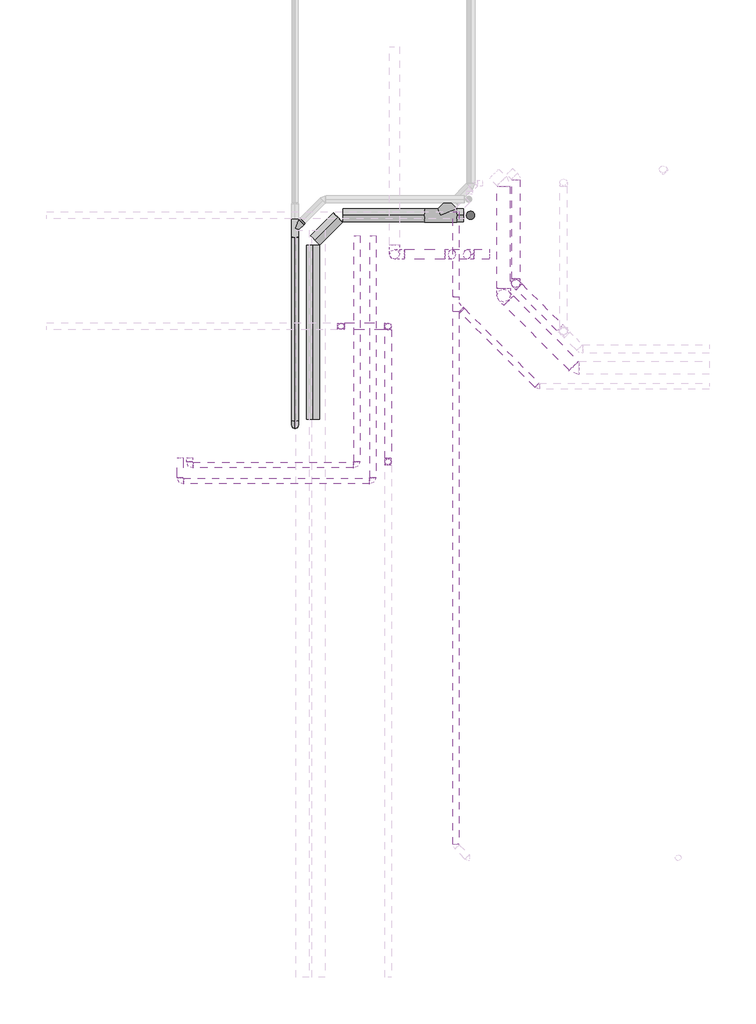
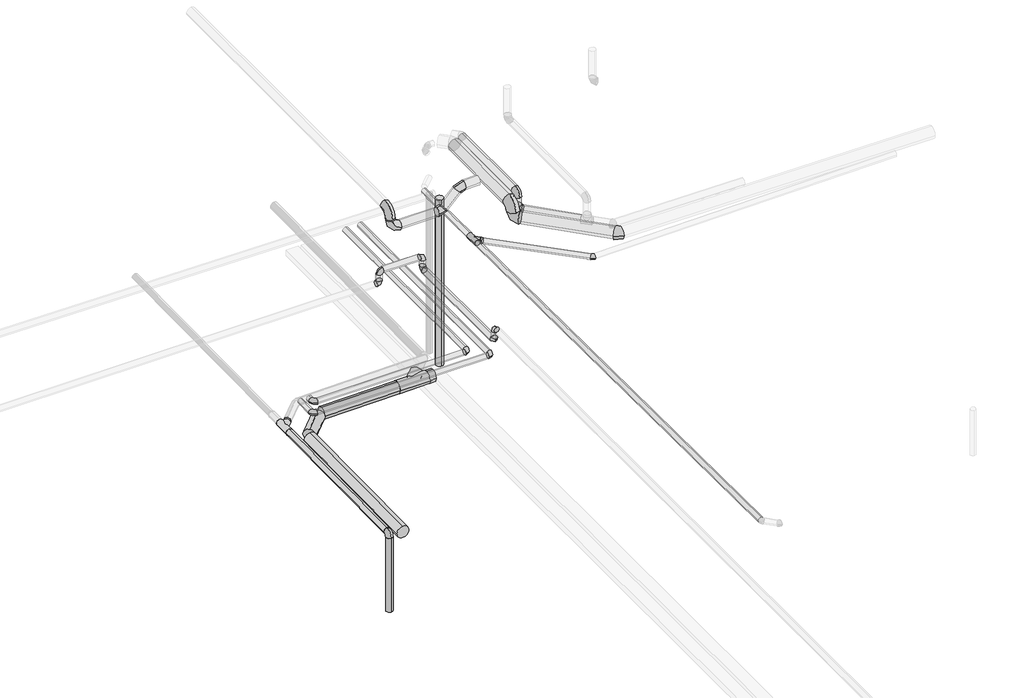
# One storey, part 8 of 10: 27 pipe segments, 22 pipe fittings, 4 duct fittings, 4 duct segments.
"""IFC4 building model written with IfcOpenShell, lengths in millimetres."""

from ifc_helpers import new_model, si_unit, point, frame, frame_2d, origin, place, context, project, spatial, circle_curve, trimmed, segment, composite_curve, outline, extrude, transform, mapped, element, save
from components import m_codo_redondo_ext_1_d_fe658834, m_codo_redondo_ext_1_d_18db741d, pipe_fitting_ae9a0cda, pipe_fitting_aab77541, pipe_fitting_eb148d84, pipe_fitting_87aeffad, pipe_fitting_044f3c29, pipe_fitting_c8b3499b, pipe_fitting_fbf8ab9e, pipe_fitting_2c972f74, pipe_fitting_8877fa9a, pipe_fitting_bb2194a9, pipe_fitting_4fd6fdf6, pipe_fitting_b4f3c030

model = new_model("IFC4")

# Units and contexts
model_context = context("Model", 3, world=origin())
ifc_project = project(units=[si_unit("LENGTHUNIT", "METRE", prefix="MILLI")], contexts=[model_context])

# Site, building, storey
site = spatial("IfcSite", under=ifc_project)
building = spatial("IfcBuilding", under=site)
storey = spatial("IfcBuildingStorey", under=building, Name="Nivell 00 P00_PB", Elevation=6330.0)

# Duct fittings
placement = place(None, origin())
m_codo_redondo_ext_1_d_shape = m_codo_redondo_ext_1_d_fe658834(model_context)
element("IfcDuctFitting", 1, ObjectType="M_Codo redondo : EXT_1 D", at=placement, inside=storey, context=model_context, shape_type="MappedRepresentation", body=[
    mapped(m_codo_redondo_ext_1_d_shape, transform((5533.9584104, 7392.2474985, 10855.0), x_axis=(0.0, -1.0, 0.0), y_axis=(0.0, 0.0, -1.0), z_axis=(1.0, 0.0, 0.0))),
])
element("IfcDuctFitting", 2, ObjectType="M_Codo redondo : EXT_1 D", at=placement, inside=storey, context=model_context, shape_type="MappedRepresentation", body=[
    mapped(m_codo_redondo_ext_1_d_shape, transform((5533.9584104, 7392.2474985, 10535.0), x_axis=(-0.9999999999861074, 5.2711602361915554e-06, 0.0), y_axis=(0.0, 0.0, 1.0), z_axis=(5.2711602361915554e-06, 0.9999999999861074, 0.0))),
])
m_codo_redondo_ext_1_d_2_shape = m_codo_redondo_ext_1_d_18db741d(model_context)
element("IfcDuctFitting", 3, ObjectType="M_Codo redondo : EXT_1 D", at=placement, inside=storey, context=model_context, shape_type="MappedRepresentation", body=[
    mapped(m_codo_redondo_ext_1_d_2_shape, transform((6690.48325, 7392.2406907, 10855.0), x_axis=(-0.9999999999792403, 6.443574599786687e-06, 0.0), y_axis=(0.0, 0.0, -1.0000000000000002), z_axis=(-6.443574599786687e-06, -0.9999999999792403, 0.0))),
])
element("IfcDuctFitting", 4, ObjectType="M_Codo redondo : EXT_1 D", at=placement, inside=storey, context=model_context, shape_type="MappedRepresentation", body=[
    mapped(m_codo_redondo_ext_1_d_2_shape, transform((6370.48325, 7392.2427527, 10535.0), x_axis=(0.9999999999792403, -6.443574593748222e-06, 0.0), y_axis=(0.0, 0.0, 1.0000000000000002), z_axis=(-6.443574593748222e-06, -0.9999999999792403, 0.0))),
])

# Duct segments
element("IfcDuctSegment", 5, ObjectType="EXT_Acer Galvanitzat - Rígid", at=placement, inside=storey, context=model_context, shape_type="SweptSolid", body=[
    extrude(outline(composite_curve([segment(trimmed(circle_curve(frame_2d((0.0, 75.0)), 75.0), [point((-75.0, 75.0))], [point((0.0, 150.0))], False, "CARTESIAN"), True, "CONTINUOUS"), segment(trimmed(circle_curve(frame_2d((0.0, 75.0)), 75.0), [point((0.0, 150.0))], [point((75.0, 75.0))], False, "CARTESIAN"), True, "CONTINUOUS"), segment(trimmed(circle_curve(frame_2d((0.0, 75.0)), 75.0), [point((75.0, 75.0))], [point((0.0, 0.0))], False, "CARTESIAN"), True, "CONTINUOUS"), segment(trimmed(circle_curve(frame_2d((0.0, 75.0)), 75.0), [point((0.0, 0.0))], [point((-75.0, 75.0))], False, "CARTESIAN"), True, "CONTINUOUS")], self_intersect=False)), frame((6990.48325, 7392.2390798, 10780.0), z_axis=(-0.9999999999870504, 5.089131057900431e-06, 0.0), x_axis=(-5.089131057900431e-06, -0.9999999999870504, 0.0)), (0.0, 0.0, 1.0), 237.8679656),
])
element("IfcDuctSegment", 6, ObjectType="EXT_Acer Galvanitzat - Rígid", at=placement, inside=storey, context=model_context, shape_type="SweptSolid", body=[
    extrude(outline(composite_curve([segment(trimmed(circle_curve(frame_2d((0.0, -75.0)), 75.0), [point((0.0003417, 0.0))], [point((75.0, -75.0003417))], False, "CARTESIAN"), True, "CONTINUOUS"), segment(trimmed(circle_curve(frame_2d((0.0, -75.0)), 75.0), [point((75.0, -75.0003417))], [point((-0.0003417, -150.0))], False, "CARTESIAN"), True, "CONTINUOUS"), segment(trimmed(circle_curve(frame_2d((0.0, -75.0)), 75.0), [point((-0.0003417, -150.0))], [point((-75.0, -74.9996583))], False, "CARTESIAN"), True, "CONTINUOUS"), segment(trimmed(circle_curve(frame_2d((0.0, -75.0)), 75.0), [point((-75.0, -74.9996583))], [point((0.0003417, 0.0))], False, "CARTESIAN"), True, "CONTINUOUS")], self_intersect=False)), frame((6414.4172328, 7467.2424696, 10578.9344661), z_axis=(0.7071067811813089, -4.55629523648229e-06, 0.7071067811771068), x_axis=(0.7071067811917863, 4.5562952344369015e-06, -0.7071067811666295)), (0.0, 0.0, 1.0), 328.2842713),
])
element("IfcDuctSegment", 7, ObjectType="EXT_Acer Galvanitzat - Rígid", at=placement, inside=storey, context=model_context, shape_type="SweptSolid", body=[
    extrude(outline(composite_curve([segment(trimmed(circle_curve(frame_2d((0.0, 75.0)), 75.0), [point((-75.0, 75.0))], [point((0.0, 150.0))], False, "CARTESIAN"), True, "CONTINUOUS"), segment(trimmed(circle_curve(frame_2d((0.0, 75.0)), 75.0), [point((0.0, 150.0))], [point((75.0, 75.0))], False, "CARTESIAN"), True, "CONTINUOUS"), segment(trimmed(circle_curve(frame_2d((0.0, 75.0)), 75.0), [point((75.0, 75.0))], [point((0.0, 0.0))], False, "CARTESIAN"), True, "CONTINUOUS"), segment(trimmed(circle_curve(frame_2d((0.0, 75.0)), 75.0), [point((0.0, 0.0))], [point((-75.0, 75.0))], False, "CARTESIAN"), True, "CONTINUOUS")], self_intersect=False)), frame((6308.3512156, 7392.243153, 10460.0), z_axis=(-0.9999999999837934, 5.693263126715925e-06, 0.0), x_axis=(-5.693263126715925e-06, -0.9999999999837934, 0.0)), (0.0, 0.0, 1.0), 624.3928052),
])
element("IfcDuctSegment", 8, ObjectType="EXT_Acer Galvanitzat - Rígid", at=placement, inside=storey, context=model_context, shape_type="SweptSolid", body=[
    extrude(outline(composite_curve([segment(trimmed(circle_curve(frame_2d((5533.9584104, 7392.2474985)), 75.0), [point((5533.9584104, 7467.2474985))], [point((5608.9584104, 7392.2474985))], False, "CARTESIAN"), True, "CONTINUOUS"), segment(trimmed(circle_curve(frame_2d((5533.9584104, 7392.2474985)), 75.0), [point((5608.9584104, 7392.2474985))], [point((5533.9584104, 7317.2474985))], False, "CARTESIAN"), True, "CONTINUOUS"), segment(trimmed(circle_curve(frame_2d((5533.9584104, 7392.2474985)), 75.0), [point((5533.9584104, 7317.2474985))], [point((5458.9584104, 7392.2474985))], False, "CARTESIAN"), True, "CONTINUOUS"), segment(trimmed(circle_curve(frame_2d((5533.9584104, 7392.2474985)), 75.0), [point((5458.9584104, 7392.2474985))], [point((5533.9584104, 7467.2474985))], False, "CARTESIAN"), True, "CONTINUOUS")], self_intersect=False)), frame((0.0, 0.0, 10685.0), z_axis=(0.0, 0.0, 1.0), x_axis=(1.0, 0.0, 0.0)), (0.0, 0.0, 1.0), 20.0),
])

# Pipe fittings
pipe_fitting_shape = pipe_fitting_ae9a0cda(model_context)
element("IfcPipeFitting", 9, ObjectType="M_Codo - Genérico : Estándar", at=placement, inside=storey, context=model_context, shape_type="MappedRepresentation", body=[
    mapped(pipe_fitting_shape, transform((8314.6980016, 5653.2554163, 10517.3310711), x_axis=(0.7070714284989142, -0.7070714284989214, -0.00999950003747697), y_axis=(0.7070714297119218, 0.7071300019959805, -0.004141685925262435), z_axis=(0.009999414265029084, -0.004141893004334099, 0.9999414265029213))),
])
pipe_fitting_2_shape = pipe_fitting_aab77541(model_context)
element("IfcPipeFitting", 10, ObjectType="M_Codo - Genérico : Estándar", at=placement, inside=storey, context=model_context, shape_type="MappedRepresentation", body=[
    mapped(pipe_fitting_2_shape, transform((4010.393115, 4779.6569696, 7288.5689686), x_axis=(0.0, -0.9999500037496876, -0.00999950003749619), y_axis=(0.0, 0.00999950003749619, -0.9999500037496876), z_axis=(1.0, 0.0, 0.0))),
])
pipe_fitting_3_shape = pipe_fitting_eb148d84(model_context)
element("IfcPipeFitting", 11, ObjectType="M_Codo - Genérico : Estándar", at=placement, inside=storey, context=model_context, shape_type="MappedRepresentation", body=[
    mapped(pipe_fitting_3_shape, transform((7206.7616298, 6761.2703161, 10752.7997), x_axis=(0.0, -0.9999500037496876, -0.009999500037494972), y_axis=(0.0, 0.009999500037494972, -0.9999500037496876), z_axis=(1.0, 0.0, 0.0))),
])
element("IfcPipeFitting", 12, ObjectType="M_Codo - Genérico : Estándar", at=placement, inside=storey, context=model_context, shape_type="MappedRepresentation", body=[
    mapped(pipe_fitting_3_shape, transform((7206.7082256, 6761.2451923, 10533.0004128), x_axis=(0.0, 0.0, -1.0), y_axis=(0.7071067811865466, -0.7071067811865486, 0.0), z_axis=(-0.7071067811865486, -0.7071067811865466, 0.0))),
])
pipe_fitting_4_shape = pipe_fitting_87aeffad(model_context)
element("IfcPipeFitting", 13, ObjectType="M_Codo - Genérico : Estándar", at=placement, inside=storey, context=model_context, shape_type="MappedRepresentation", body=[
    mapped(pipe_fitting_4_shape, transform((4957.1942112, 4165.2793628, 10525.0), x_axis=(1.0, 0.0, 0.0), y_axis=(0.0, 1.0, 0.0), z_axis=(0.0, 0.0, 1.0))),
])
element("IfcPipeFitting", 14, ObjectType="M_Codo - Genérico : Estándar", at=placement, inside=storey, context=model_context, shape_type="MappedRepresentation", body=[
    mapped(pipe_fitting_4_shape, transform((2392.2371387, 4165.2793628, 10525.0), x_axis=(0.0, -1.0, 0.0), y_axis=(1.0, 0.0, 0.0), z_axis=(0.0, 0.0, 1.0))),
])
element("IfcPipeFitting", 15, ObjectType="M_Codo - Genérico : Estándar", at=placement, inside=storey, context=model_context, shape_type="MappedRepresentation", body=[
    mapped(pipe_fitting_4_shape, transform((5202.1942112, 3920.2793628, 10525.0), x_axis=(1.0, 0.0, 0.0), y_axis=(0.0, 1.0, 0.0), z_axis=(0.0, 0.0, 1.0))),
])
element("IfcPipeFitting", 16, ObjectType="M_Codo - Genérico : Estándar", at=placement, inside=storey, context=model_context, shape_type="MappedRepresentation", body=[
    mapped(pipe_fitting_4_shape, transform((2247.2371387, 3920.2793628, 10525.0), x_axis=(0.0, -1.0, 0.0), y_axis=(1.0, 0.0, 0.0), z_axis=(0.0, 0.0, 1.0))),
])
element("IfcPipeFitting", 17, ObjectType="M_Codo - Genérico : Estándar", at=placement, inside=storey, context=model_context, shape_type="MappedRepresentation", body=[
    mapped(pipe_fitting_4_shape, transform((4715.0450564, 6291.9942873, 10519.2), x_axis=(0.0, 0.0, -1.0), y_axis=(-1.0, 0.0, 0.0), z_axis=(0.0, 1.0, 0.0))),
])
element("IfcPipeFitting", 18, ObjectType="M_Codo - Genérico : Estándar", at=placement, inside=storey, context=model_context, shape_type="MappedRepresentation", body=[
    mapped(pipe_fitting_4_shape, transform((5436.8741871, 6291.9942873, 10730.8), x_axis=(0.0, 0.0, 1.0), y_axis=(-1.0, 0.0, 0.0), z_axis=(0.0, -1.0, 0.0))),
])
element("IfcPipeFitting", 19, ObjectType="M_Codo - Genérico : Estándar", at=placement, inside=storey, context=model_context, shape_type="MappedRepresentation", body=[
    mapped(pipe_fitting_4_shape, transform((4715.0450564, 6291.9942873, 10730.8), x_axis=(0.0, 0.0, 1.0), y_axis=(1.0, 0.0, 0.0), z_axis=(0.0, 1.0, 0.0))),
])
element("IfcPipeFitting", 20, ObjectType="M_Codo - Genérico : Estándar", at=placement, inside=storey, context=model_context, shape_type="MappedRepresentation", body=[
    mapped(pipe_fitting_4_shape, transform((5436.8741871, 6291.9942873, 10519.2), x_axis=(0.0, 0.0, -1.0), y_axis=(0.0, -1.0, 0.0), z_axis=(-1.0, 0.0, 0.0))),
])
element("IfcPipeFitting", 21, ObjectType="M_Codo - Genérico : Estándar", at=placement, inside=storey, context=model_context, shape_type="MappedRepresentation", body=[
    mapped(pipe_fitting_4_shape, transform((5436.8741871, 4216.5880373, 10519.2), x_axis=(0.0, 0.0, -1.0), y_axis=(0.0, 1.0, 0.0), z_axis=(1.0, 0.0, 0.0))),
])
element("IfcPipeFitting", 22, ObjectType="M_Codo - Genérico : Estándar", at=placement, inside=storey, context=model_context, shape_type="MappedRepresentation", body=[
    mapped(pipe_fitting_4_shape, transform((5436.8741871, 4216.5880373, 10729.2), x_axis=(0.0, 0.0, 1.0), y_axis=(0.0, -1.0, 0.0), z_axis=(1.0, 0.0, 0.0))),
])
pipe_fitting_5_shape = pipe_fitting_044f3c29(model_context)
element("IfcPipeFitting", 23, ObjectType="M_Te - Genérica : Estándar", at=placement, inside=storey, context=model_context, shape_type="MappedRepresentation", body=[
    mapped(pipe_fitting_5_shape, transform((4010.393115, 7791.7826012, 7318.690225), x_axis=(0.0, 0.9999500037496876, 0.00999950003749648), y_axis=(-0.9999914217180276, 4.141832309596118e-05, -0.004141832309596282), z_axis=(-0.0041420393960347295, -0.009999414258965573, 0.999941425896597))),
])
pipe_fitting_6_shape = pipe_fitting_c8b3499b(model_context)
element("IfcPipeFitting", 24, ObjectType="M_Transición - Genérica : Estándar", at=placement, inside=storey, context=model_context, shape_type="MappedRepresentation", body=[
    mapped(pipe_fitting_6_shape, transform((4106.9938486, 7888.3785063, 7320.0563315), x_axis=(0.7070890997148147, 0.7070537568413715, 0.009999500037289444), y_axis=(-0.7071123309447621, 0.7070891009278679, 0.0041418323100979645), z_axis=(-0.004142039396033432, -0.009999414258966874, 0.999941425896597))),
])
pipe_fitting_7_shape = pipe_fitting_fbf8ab9e(model_context)
element("IfcPipeFitting", 25, ObjectType="M_Te - Genérica : Estándar", at=placement, inside=storey, context=model_context, shape_type="MappedRepresentation", body=[
    mapped(pipe_fitting_7_shape, transform((6240.1219923, 7990.2242431, 7208.4081898), x_axis=(0.9999500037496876, 0.0, 0.009999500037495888), y_axis=(4.1415397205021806e-05, -0.9999914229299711, -0.0041415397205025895), z_axis=(0.009999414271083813, 0.004141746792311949, -0.99994142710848))),
])
pipe_fitting_8_shape = pipe_fitting_2c972f74(model_context)
element("IfcPipeFitting", 26, ObjectType="M_Te - Genérica : Estándar", at=placement, inside=storey, context=model_context, shape_type="MappedRepresentation", body=[
    mapped(pipe_fitting_8_shape, transform((6477.5058589, 6628.2766187, 10463.6539336), x_axis=(0.0, -0.9999500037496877, 0.009999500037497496), y_axis=(-0.9999914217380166, -4.141827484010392e-05, -0.004141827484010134), z_axis=(0.004142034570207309, -0.00999941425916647, -0.9999414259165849))),
])
pipe_fitting_9_shape = pipe_fitting_8877fa9a(model_context)
element("IfcPipeFitting", 27, ObjectType="M_Codo - Genérico : Estándar", at=placement, inside=storey, context=model_context, shape_type="MappedRepresentation", body=[
    mapped(pipe_fitting_9_shape, transform((7733.3949491, 5372.4503571, 10472.9966428), x_axis=(0.7070891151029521, -0.7070537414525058, 0.009999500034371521), y_axis=(0.7070537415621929, 0.7071476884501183, 0.004141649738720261), z_axis=(-0.00999949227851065, 0.004141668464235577, 0.9999414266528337))),
])
pipe_fitting_10_shape = pipe_fitting_bb2194a9(model_context)
element("IfcPipeFitting", 28, ObjectType="M_Transición - Genérica : Estándar", at=placement, inside=storey, context=model_context, shape_type="MappedRepresentation", body=[
    mapped(pipe_fitting_10_shape, transform((6556.0759392, 6549.6983391, 10466.8361244), x_axis=(0.7070891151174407, -0.7070537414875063, 0.009999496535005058), y_axis=(0.70711231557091, 0.7070891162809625, -0.004141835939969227), z_axis=(-0.004142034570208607, 0.00999941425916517, 0.9999414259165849))),
])
pipe_fitting_11_shape = pipe_fitting_4fd6fdf6(model_context)
element("IfcPipeFitting", 29, ObjectType="M_Codo - Genérico : Estándar", at=placement, inside=storey, context=model_context, shape_type="MappedRepresentation", body=[
    mapped(pipe_fitting_11_shape, transform((7393.1189049, 6944.9991664, 10780.0144339), x_axis=(0.0, -0.9999500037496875, -0.009999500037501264), y_axis=(-0.004141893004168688, 0.00999941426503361, -0.999941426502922), z_axis=(0.9999914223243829, 4.141685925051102e-05, -0.004141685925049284))),
])
pipe_fitting_12_shape = pipe_fitting_b4f3c030(model_context)
element("IfcPipeFitting", 30, ObjectType="M_Codo - Genérico : Estándar", at=placement, inside=storey, context=model_context, shape_type="MappedRepresentation", body=[
    mapped(pipe_fitting_12_shape, transform((7392.0462824, 6944.6233082, 10492.7439995), x_axis=(-0.004141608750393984, -0.0017161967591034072, -0.9999899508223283), y_axis=(0.7071300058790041, -0.7070814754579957, -0.001715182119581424), z_axis=(-0.7070714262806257, -0.7071300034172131, 0.004142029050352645))),
])

# Pipe segments
element("IfcPipeSegment", 31, ObjectType="PP_FN", at=placement, inside=storey, context=model_context, shape_type="SweptSolid", body=[
    extrude(outline(composite_curve([segment(trimmed(circle_curve(frame_2d((10525.0, 2392.2371387)), 45.0), [point((10525.0, 2347.2371387))], [point((10480.0, 2392.2371387))], False, "CARTESIAN"), True, "CONTINUOUS"), segment(trimmed(circle_curve(frame_2d((10525.0, 2392.2371387)), 45.0), [point((10480.0, 2392.2371387))], [point((10525.0, 2437.2371387))], False, "CARTESIAN"), True, "CONTINUOUS"), segment(trimmed(circle_curve(frame_2d((10525.0, 2392.2371387)), 45.0), [point((10525.0, 2437.2371387))], [point((10570.0, 2392.2371387))], False, "CARTESIAN"), True, "CONTINUOUS"), segment(trimmed(circle_curve(frame_2d((10525.0, 2392.2371387)), 45.0), [point((10570.0, 2392.2371387))], [point((10525.0, 2347.2371387))], False, "CARTESIAN"), True, "CONTINUOUS")], self_intersect=False)), frame((0.0, 4217.6668628, 0.0), z_axis=(0.0, 1.0, 0.0), x_axis=(0.0, 0.0, 1.0)), (0.0, 0.0, 1.0), 62.6125),
])
element("IfcPipeSegment", 32, ObjectType="PP_FN", at=placement, inside=storey, context=model_context, shape_type="SweptSolid", body=[
    extrude(outline(composite_curve([segment(trimmed(circle_curve(frame_2d((10525.0, 2247.2371387)), 45.0), [point((10525.0, 2292.2371387))], [point((10570.0, 2247.2371387))], False, "CARTESIAN"), True, "CONTINUOUS"), segment(trimmed(circle_curve(frame_2d((10525.0, 2247.2371387)), 45.0), [point((10570.0, 2247.2371387))], [point((10525.0, 2202.2371387))], False, "CARTESIAN"), True, "CONTINUOUS"), segment(trimmed(circle_curve(frame_2d((10525.0, 2247.2371387)), 45.0), [point((10525.0, 2202.2371387))], [point((10480.0, 2247.2371387))], False, "CARTESIAN"), True, "CONTINUOUS"), segment(trimmed(circle_curve(frame_2d((10525.0, 2247.2371387)), 45.0), [point((10480.0, 2247.2371387))], [point((10525.0, 2292.2371387))], False, "CARTESIAN"), True, "CONTINUOUS")], self_intersect=False)), frame((0.0, 3972.6668628, 0.0), z_axis=(0.0, 1.0, 0.0), x_axis=(0.0, 0.0, 1.0)), (0.0, 0.0, 1.0), 307.6125),
])
element("IfcPipeSegment", 33, ObjectType="PP_FN", at=placement, inside=storey, context=model_context, shape_type="SweptSolid", body=[
    extrude(outline(composite_curve([segment(trimmed(circle_curve(frame_2d((4165.2793628, 10525.0)), 45.0), [point((4210.2793628, 10525.0))], [point((4165.2793628, 10480.0))], False, "CARTESIAN"), True, "CONTINUOUS"), segment(trimmed(circle_curve(frame_2d((4165.2793628, 10525.0)), 45.0), [point((4165.2793628, 10480.0))], [point((4120.2793628, 10525.0))], False, "CARTESIAN"), True, "CONTINUOUS"), segment(trimmed(circle_curve(frame_2d((4165.2793628, 10525.0)), 45.0), [point((4120.2793628, 10525.0))], [point((4165.2793628, 10570.0))], False, "CARTESIAN"), True, "CONTINUOUS"), segment(trimmed(circle_curve(frame_2d((4165.2793628, 10525.0)), 45.0), [point((4165.2793628, 10570.0))], [point((4210.2793628, 10525.0))], False, "CARTESIAN"), True, "CONTINUOUS")], self_intersect=False)), frame((2444.6246387, 0.0, 0.0), z_axis=(1.0, 0.0, 0.0), x_axis=(0.0, 1.0, 0.0)), (0.0, 0.0, 1.0), 2460.1820725),
])
element("IfcPipeSegment", 34, ObjectType="PP_FN", at=placement, inside=storey, context=model_context, shape_type="SweptSolid", body=[
    extrude(outline(composite_curve([segment(trimmed(circle_curve(frame_2d((3920.2793628, 10525.0)), 45.0), [point((3965.2793628, 10525.0))], [point((3920.2793628, 10480.0))], False, "CARTESIAN"), True, "CONTINUOUS"), segment(trimmed(circle_curve(frame_2d((3920.2793628, 10525.0)), 45.0), [point((3920.2793628, 10480.0))], [point((3875.2793628, 10525.0))], False, "CARTESIAN"), True, "CONTINUOUS"), segment(trimmed(circle_curve(frame_2d((3920.2793628, 10525.0)), 45.0), [point((3875.2793628, 10525.0))], [point((3920.2793628, 10570.0))], False, "CARTESIAN"), True, "CONTINUOUS"), segment(trimmed(circle_curve(frame_2d((3920.2793628, 10525.0)), 45.0), [point((3920.2793628, 10570.0))], [point((3965.2793628, 10525.0))], False, "CARTESIAN"), True, "CONTINUOUS")], self_intersect=False)), frame((2299.6246387, 0.0, 0.0), z_axis=(1.0, 0.0, 0.0), x_axis=(0.0, 1.0, 0.0)), (0.0, 0.0, 1.0), 2850.1820725),
])
element("IfcPipeSegment", 35, ObjectType="PP_FN", at=placement, inside=storey, context=model_context, shape_type="SweptSolid", body=[
    extrude(outline(composite_curve([segment(trimmed(circle_curve(frame_2d((10525.0, 4957.1942112)), 45.0), [point((10525.0, 4912.1942112))], [point((10480.0, 4957.1942112))], False, "CARTESIAN"), True, "CONTINUOUS"), segment(trimmed(circle_curve(frame_2d((10525.0, 4957.1942112)), 45.0), [point((10480.0, 4957.1942112))], [point((10525.0, 5002.1942112))], False, "CARTESIAN"), True, "CONTINUOUS"), segment(trimmed(circle_curve(frame_2d((10525.0, 4957.1942112)), 45.0), [point((10525.0, 5002.1942112))], [point((10570.0, 4957.1942112))], False, "CARTESIAN"), True, "CONTINUOUS"), segment(trimmed(circle_curve(frame_2d((10525.0, 4957.1942112)), 45.0), [point((10570.0, 4957.1942112))], [point((10525.0, 4912.1942112))], False, "CARTESIAN"), True, "CONTINUOUS")], self_intersect=False)), frame((0.0, 4217.6668628, 0.0), z_axis=(0.0, 1.0, 0.0), x_axis=(0.0, 0.0, 1.0)), (0.0, 0.0, 1.0), 3459.1796421),
])
element("IfcPipeSegment", 36, ObjectType="PP_FN", at=placement, inside=storey, context=model_context, shape_type="SweptSolid", body=[
    extrude(outline(composite_curve([segment(trimmed(circle_curve(frame_2d((10525.0, 5202.1942112)), 45.0), [point((10525.0, 5157.1942112))], [point((10480.0, 5202.1942112))], False, "CARTESIAN"), True, "CONTINUOUS"), segment(trimmed(circle_curve(frame_2d((10525.0, 5202.1942112)), 45.0), [point((10480.0, 5202.1942112))], [point((10525.0, 5247.1942112))], False, "CARTESIAN"), True, "CONTINUOUS"), segment(trimmed(circle_curve(frame_2d((10525.0, 5202.1942112)), 45.0), [point((10525.0, 5247.1942112))], [point((10570.0, 5202.1942112))], False, "CARTESIAN"), True, "CONTINUOUS"), segment(trimmed(circle_curve(frame_2d((10525.0, 5202.1942112)), 45.0), [point((10570.0, 5202.1942112))], [point((10525.0, 5157.1942112))], False, "CARTESIAN"), True, "CONTINUOUS")], self_intersect=False)), frame((0.0, 3972.6668628, 0.0), z_axis=(0.0, 1.0, 0.0), x_axis=(0.0, 0.0, 1.0)), (0.0, 0.0, 1.0), 3704.1796421),
])
element("IfcPipeSegment", 37, ObjectType="AN_CI", at=placement, inside=storey, context=model_context, shape_type="SweptSolid", body=[
    extrude(outline(composite_curve([segment(trimmed(circle_curve(frame_2d((6291.9942873, 10730.8)), 50.8), [point((6342.7942873, 10730.8))], [point((6291.9942873, 10680.0))], False, "CARTESIAN"), True, "CONTINUOUS"), segment(trimmed(circle_curve(frame_2d((6291.9942873, 10730.8)), 50.8), [point((6291.9942873, 10680.0))], [point((6241.1942873, 10730.8))], False, "CARTESIAN"), True, "CONTINUOUS"), segment(trimmed(circle_curve(frame_2d((6291.9942873, 10730.8)), 50.8), [point((6241.1942873, 10730.8))], [point((6291.9942873, 10781.6))], False, "CARTESIAN"), True, "CONTINUOUS"), segment(trimmed(circle_curve(frame_2d((6291.9942873, 10730.8)), 50.8), [point((6291.9942873, 10781.6))], [point((6342.7942873, 10730.8))], False, "CARTESIAN"), True, "CONTINUOUS")], self_intersect=False)), frame((4767.4325564, 0.0, 0.0), z_axis=(1.0, 0.0, 0.0), x_axis=(0.0, 1.0, 0.0)), (0.0, 0.0, 1.0), 617.0541307),
])
element("IfcPipeSegment", 38, ObjectType="AN_CI", at=placement, inside=storey, context=model_context, shape_type="SweptSolid", body=[
    extrude(outline(composite_curve([segment(trimmed(circle_curve(frame_2d((10519.2, 5436.8741871)), 50.8), [point((10519.2, 5386.0741871))], [point((10468.4, 5436.8741871))], False, "CARTESIAN"), True, "CONTINUOUS"), segment(trimmed(circle_curve(frame_2d((10519.2, 5436.8741871)), 50.8), [point((10468.4, 5436.8741871))], [point((10519.2, 5487.6741871))], False, "CARTESIAN"), True, "CONTINUOUS"), segment(trimmed(circle_curve(frame_2d((10519.2, 5436.8741871)), 50.8), [point((10519.2, 5487.6741871))], [point((10570.0, 5436.8741871))], False, "CARTESIAN"), True, "CONTINUOUS"), segment(trimmed(circle_curve(frame_2d((10519.2, 5436.8741871)), 50.8), [point((10570.0, 5436.8741871))], [point((10519.2, 5386.0741871))], False, "CARTESIAN"), True, "CONTINUOUS")], self_intersect=False)), frame((0.0, 4268.9755373, 0.0), z_axis=(0.0, 1.0, 0.0), x_axis=(0.0, 0.0, 1.0)), (0.0, 0.0, 1.0), 1970.63125),
])
element("IfcPipeSegment", 39, ObjectType="AN_CI", at=placement, inside=storey, context=model_context, shape_type="SweptSolid", body=[
    extrude(outline(composite_curve([segment(trimmed(circle_curve(frame_2d((4715.0450564, 6291.9942873)), 50.8), [point((4765.8450564, 6291.9942873))], [point((4715.0450564, 6241.1942873))], False, "CARTESIAN"), True, "CONTINUOUS"), segment(trimmed(circle_curve(frame_2d((4715.0450564, 6291.9942873)), 50.8), [point((4715.0450564, 6241.1942873))], [point((4664.2450564, 6291.9942873))], False, "CARTESIAN"), True, "CONTINUOUS"), segment(trimmed(circle_curve(frame_2d((4715.0450564, 6291.9942873)), 50.8), [point((4664.2450564, 6291.9942873))], [point((4715.0450564, 6342.7942873))], False, "CARTESIAN"), True, "CONTINUOUS"), segment(trimmed(circle_curve(frame_2d((4715.0450564, 6291.9942873)), 50.8), [point((4715.0450564, 6342.7942873))], [point((4765.8450564, 6291.9942873))], False, "CARTESIAN"), True, "CONTINUOUS")], self_intersect=False)), frame((0.0, 0.0, 10571.5875), z_axis=(0.0, 0.0, 1.0), x_axis=(1.0, 0.0, 0.0)), (0.0, 0.0, 1.0), 106.825),
])
element("IfcPipeSegment", 40, ObjectType="AN_CI", at=placement, inside=storey, context=model_context, shape_type="SweptSolid", body=[
    extrude(outline(composite_curve([segment(trimmed(circle_curve(frame_2d((5436.8741871, 6291.9942873)), 50.8), [point((5386.0741871, 6291.9942873))], [point((5436.8741871, 6342.7942873))], False, "CARTESIAN"), True, "CONTINUOUS"), segment(trimmed(circle_curve(frame_2d((5436.8741871, 6291.9942873)), 50.8), [point((5436.8741871, 6342.7942873))], [point((5487.6741871, 6291.9942873))], False, "CARTESIAN"), True, "CONTINUOUS"), segment(trimmed(circle_curve(frame_2d((5436.8741871, 6291.9942873)), 50.8), [point((5487.6741871, 6291.9942873))], [point((5436.8741871, 6241.1942873))], False, "CARTESIAN"), True, "CONTINUOUS"), segment(trimmed(circle_curve(frame_2d((5436.8741871, 6291.9942873)), 50.8), [point((5436.8741871, 6241.1942873))], [point((5386.0741871, 6291.9942873))], False, "CARTESIAN"), True, "CONTINUOUS")], self_intersect=False)), frame((0.0, 0.0, 10571.5875), z_axis=(0.0, 0.0, 1.0), x_axis=(1.0, 0.0, 0.0)), (0.0, 0.0, 1.0), 106.825),
])
element("IfcPipeSegment", 41, ObjectType="AN_CI", at=placement, inside=storey, context=model_context, shape_type="SweptSolid", body=[
    extrude(outline(composite_curve([segment(trimmed(circle_curve(frame_2d((5436.8741871, 4216.5880373)), 50.8), [point((5487.6741871, 4216.5880373))], [point((5436.8741871, 4165.7880373))], False, "CARTESIAN"), True, "CONTINUOUS"), segment(trimmed(circle_curve(frame_2d((5436.8741871, 4216.5880373)), 50.8), [point((5436.8741871, 4165.7880373))], [point((5386.0741871, 4216.5880373))], False, "CARTESIAN"), True, "CONTINUOUS"), segment(trimmed(circle_curve(frame_2d((5436.8741871, 4216.5880373)), 50.8), [point((5386.0741871, 4216.5880373))], [point((5436.8741871, 4267.3880373))], False, "CARTESIAN"), True, "CONTINUOUS"), segment(trimmed(circle_curve(frame_2d((5436.8741871, 4216.5880373)), 50.8), [point((5436.8741871, 4267.3880373))], [point((5487.6741871, 4216.5880373))], False, "CARTESIAN"), True, "CONTINUOUS")], self_intersect=False)), frame((0.0, 0.0, 10571.5875), z_axis=(0.0, 0.0, 1.0), x_axis=(1.0, 0.0, 0.0)), (0.0, 0.0, 1.0), 105.225),
])
element("IfcPipeSegment", 42, ObjectType="PVC_Baixant", at=placement, inside=storey, context=model_context, shape_type="SweptSolid", body=[
    extrude(outline(composite_curve([segment(trimmed(circle_curve(frame_2d((0.0, 100.0)), 100.0), [point((100.0, 99.9999976))], [point((-2.3e-06, 0.0))], False, "CARTESIAN"), True, "CONTINUOUS"), segment(trimmed(circle_curve(frame_2d((0.0, 100.0)), 100.0), [point((-2.3e-06, 0.0))], [point((-100.0, 100.0000024))], False, "CARTESIAN"), True, "CONTINUOUS"), segment(trimmed(circle_curve(frame_2d((0.0, 100.0)), 100.0), [point((-100.0, 100.0000024))], [point((2.4e-06, 200.0))], False, "CARTESIAN"), True, "CONTINUOUS"), segment(trimmed(circle_curve(frame_2d((0.0, 100.0)), 100.0), [point((2.4e-06, 200.0))], [point((100.0, 99.9999976))], False, "CARTESIAN"), True, "CONTINUOUS")], self_intersect=False)), frame((4286.922778, 4865.243884, 7260.0499218), z_axis=(2.387406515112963e-06, 0.9999500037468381, 0.009999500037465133), x_axis=(0.9999999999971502, -2.3872871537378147e-06, -2.3872871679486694e-08)), (0.0, 0.0, 1.0), 2665.8893733),
])
element("IfcPipeSegment", 43, ObjectType="PVC_Baixant", at=placement, inside=storey, context=model_context, shape_type="SweptSolid", body=[
    extrude(outline(composite_curve([segment(trimmed(circle_curve(frame_2d((0.0, 100.0)), 100.0), [point((99.995001, 99.0001))], [point((-0.9999, 0.0049991))], False, "CARTESIAN"), True, "CONTINUOUS"), segment(trimmed(circle_curve(frame_2d((0.0, 100.0)), 100.0), [point((-0.9999, 0.0049991))], [point((-99.9950009, 100.9999))], False, "CARTESIAN"), True, "CONTINUOUS"), segment(trimmed(circle_curve(frame_2d((0.0, 100.0)), 100.0), [point((-99.9950009, 100.9999))], [point((0.9999001, 199.9950008))], False, "CARTESIAN"), True, "CONTINUOUS"), segment(trimmed(circle_curve(frame_2d((0.0, 100.0)), 100.0), [point((0.9999001, 199.9950008))], [point((99.995001, 99.0001))], False, "CARTESIAN"), True, "CONTINUOUS")], self_intersect=False)), frame((4319.0084504, 7608.0318892, 7287.6098205), z_axis=(0.707071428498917, 0.7070714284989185, 0.009999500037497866), x_axis=(0.7071421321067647, -0.7070007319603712, -0.00999850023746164)), (0.0, 0.0, 1.0), 493.1594743),
])
element("IfcPipeSegment", 44, ObjectType="PVC_Baixant", at=placement, inside=storey, context=model_context, shape_type="SweptSolid", body=[
    extrude(outline(composite_curve([segment(trimmed(circle_curve(frame_2d((6699.3030171, 7990.2242431)), 62.5), [point((6636.8030171, 7990.2242431))], [point((6699.3030171, 8052.7242431))], False, "CARTESIAN"), True, "CONTINUOUS"), segment(trimmed(circle_curve(frame_2d((6699.3030171, 7990.2242431)), 62.5), [point((6699.3030171, 8052.7242431))], [point((6761.8030171, 7990.2242431))], False, "CARTESIAN"), True, "CONTINUOUS"), segment(trimmed(circle_curve(frame_2d((6699.3030171, 7990.2242431)), 62.5), [point((6761.8030171, 7990.2242431))], [point((6699.3030171, 7927.7242431))], False, "CARTESIAN"), True, "CONTINUOUS"), segment(trimmed(circle_curve(frame_2d((6699.3030171, 7990.2242431)), 62.5), [point((6699.3030171, 7927.7242431))], [point((6636.8030171, 7990.2242431))], False, "CARTESIAN"), True, "CONTINUOUS")], self_intersect=False)), frame((0.0, 0.0, 7370.0413517), z_axis=(0.0, 0.0, 1.0), x_axis=(1.0, 0.0, 0.0)), (0.0, 0.0, 1.0), 2913.7589582),
])
element("IfcPipeSegment", 45, ObjectType="PVC_Baixant", at=placement, inside=storey, context=model_context, shape_type="SweptSolid", body=[
    extrude(outline(composite_curve([segment(trimmed(circle_curve(frame_2d((0.0, 55.0)), 55.0), [point((55.0, 55.0))], [point((0.0, 0.0))], False, "CARTESIAN"), True, "CONTINUOUS"), segment(trimmed(circle_curve(frame_2d((0.0, 55.0)), 55.0), [point((0.0, 0.0))], [point((-55.0, 55.0))], False, "CARTESIAN"), True, "CONTINUOUS"), segment(trimmed(circle_curve(frame_2d((0.0, 55.0)), 55.0), [point((-55.0, 55.0))], [point((0.0, 110.0))], False, "CARTESIAN"), True, "CONTINUOUS"), segment(trimmed(circle_curve(frame_2d((0.0, 55.0)), 55.0), [point((0.0, 110.0))], [point((55.0, 55.0))], False, "CARTESIAN"), True, "CONTINUOUS")], self_intersect=False)), frame((4010.393115, 4841.4151536, 7344.1893004), z_axis=(0.0, 0.9999500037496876, 0.009999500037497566), x_axis=(1.0, 0.0, 0.0)), (0.0, 0.0, 1.0), 2813.3474785),
])
element("IfcPipeSegment", 46, ObjectType="PVC_Baixant", at=placement, inside=storey, context=model_context, shape_type="SweptSolid", body=[
    extrude(outline(composite_curve([segment(trimmed(circle_curve(frame_2d((0.0, 100.0)), 100.0), [point((0.0, 0.0))], [point((-100.0, 100.0))], False, "CARTESIAN"), True, "CONTINUOUS"), segment(trimmed(circle_curve(frame_2d((0.0, 100.0)), 100.0), [point((-100.0, 100.0))], [point((0.0, 200.0))], False, "CARTESIAN"), True, "CONTINUOUS"), segment(trimmed(circle_curve(frame_2d((0.0, 100.0)), 100.0), [point((0.0, 200.0))], [point((100.0, 100.0))], False, "CARTESIAN"), True, "CONTINUOUS"), segment(trimmed(circle_curve(frame_2d((0.0, 100.0)), 100.0), [point((100.0, 100.0))], [point((0.0, 0.0))], False, "CARTESIAN"), True, "CONTINUOUS")], self_intersect=False)), frame((6489.2495853, 7890.2242431, 7210.8994657), z_axis=(0.9999500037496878, 0.0, 0.009999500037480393), x_axis=(0.009999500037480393, 0.0, -0.9999500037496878)), (0.0, 0.0, 1.0), 101.286349),
])
element("IfcPipeSegment", 47, ObjectType="PVC_Baixant", at=placement, inside=storey, context=model_context, shape_type="SweptSolid", body=[
    extrude(outline(composite_curve([segment(trimmed(circle_curve(frame_2d((0.0, 100.0)), 100.0), [point((0.0, 0.0))], [point((-99.9999999, 100.0))], False, "CARTESIAN"), True, "CONTINUOUS"), segment(trimmed(circle_curve(frame_2d((0.0, 100.0)), 100.0), [point((-99.9999999, 100.0))], [point((0.0, 200.0))], False, "CARTESIAN"), True, "CONTINUOUS"), segment(trimmed(circle_curve(frame_2d((0.0, 100.0)), 100.0), [point((0.0, 200.0))], [point((100.0, 100.0))], False, "CARTESIAN"), True, "CONTINUOUS"), segment(trimmed(circle_curve(frame_2d((0.0, 100.0)), 100.0), [point((100.0, 100.0))], [point((0.0, 0.0))], False, "CARTESIAN"), True, "CONTINUOUS")], self_intersect=False)), frame((4745.1537244, 7890.2242431, 7193.4585071), z_axis=(0.9999500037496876, 0.0, 0.009999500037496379), x_axis=(0.009999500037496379, 0.0, -0.9999500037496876)), (0.0, 0.0, 1.0), 1245.9029654),
])
element("IfcPipeSegment", 48, ObjectType="PVC_Baixant", at=placement, inside=storey, context=model_context, shape_type="SweptSolid", body=[
    extrude(outline(composite_curve([segment(trimmed(circle_curve(frame_2d((4010.393115, 4779.6569696)), 55.0), [point((4065.393115, 4779.6569696))], [point((4010.393115, 4724.6569696))], False, "CARTESIAN"), True, "CONTINUOUS"), segment(trimmed(circle_curve(frame_2d((4010.393115, 4779.6569696)), 55.0), [point((4010.393115, 4724.6569696))], [point((3955.393115, 4779.6569696))], False, "CARTESIAN"), True, "CONTINUOUS"), segment(trimmed(circle_curve(frame_2d((4010.393115, 4779.6569696)), 55.0), [point((3955.393115, 4779.6569696))], [point((4010.393115, 4834.6569696))], False, "CARTESIAN"), True, "CONTINUOUS"), segment(trimmed(circle_curve(frame_2d((4010.393115, 4779.6569696)), 55.0), [point((4010.393115, 4834.6569696))], [point((4065.393115, 4779.6569696))], False, "CARTESIAN"), True, "CONTINUOUS")], self_intersect=False)), frame((0.0, 0.0, 5928.7318617), z_axis=(0.0, 0.0, 1.0), x_axis=(1.0, 0.0, 0.0)), (0.0, 0.0, 1.0), 1297.5258351),
])
element("IfcPipeSegment", 49, ObjectType="PVC_Baixant", at=placement, inside=storey, context=model_context, shape_type="SweptSolid", body=[
    extrude(outline(composite_curve([segment(trimmed(circle_curve(frame_2d((0.0, -45.0)), 45.0), [point((44.9977502, -44.5500227))], [point((0.4499774, -89.9977502))], False, "CARTESIAN"), True, "CONTINUOUS"), segment(trimmed(circle_curve(frame_2d((0.0, -45.0)), 45.0), [point((0.4499774, -89.9977502))], [point((-44.9977501, -45.4499774))], False, "CARTESIAN"), True, "CONTINUOUS"), segment(trimmed(circle_curve(frame_2d((0.0, -45.0)), 45.0), [point((-44.9977501, -45.4499774))], [point((-0.4499774, -0.0022498))], False, "CARTESIAN"), True, "CONTINUOUS"), segment(trimmed(circle_curve(frame_2d((0.0, -45.0)), 45.0), [point((-0.4499774, -0.0022498))], [point((44.9977502, -44.5500227))], False, "CARTESIAN"), True, "CONTINUOUS")], self_intersect=False)), frame((6572.4324731, 6533.9911016, 10501.5740708), z_axis=(0.7070891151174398, -0.7070537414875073, 0.00999949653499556), x_axis=(0.7071244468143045, 0.7070184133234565, -0.009998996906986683)), (0.0, 0.0, 1.0), 1620.1917469),
])
element("IfcPipeSegment", 50, ObjectType="PVC_Baixant", at=placement, inside=storey, context=model_context, shape_type="SweptSolid", body=[
    extrude(outline(composite_curve([segment(trimmed(circle_curve(frame_2d((0.0, -45.0)), 45.0), [point((45.0, -45.0))], [point((0.0, -90.0))], False, "CARTESIAN"), True, "CONTINUOUS"), segment(trimmed(circle_curve(frame_2d((0.0, -45.0)), 45.0), [point((0.0, -90.0))], [point((-45.0, -45.0))], False, "CARTESIAN"), True, "CONTINUOUS"), segment(trimmed(circle_curve(frame_2d((0.0, -45.0)), 45.0), [point((-45.0, -45.0))], [point((0.0, 0.0))], False, "CARTESIAN"), True, "CONTINUOUS"), segment(trimmed(circle_curve(frame_2d((0.0, -45.0)), 45.0), [point((0.0, 0.0))], [point((45.0, -45.0))], False, "CARTESIAN"), True, "CONTINUOUS")], self_intersect=False)), frame((6477.5058589, 8044.7165078, 10494.4917846), z_axis=(0.0, -0.9999500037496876, 0.009999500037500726), x_axis=(1.0, 0.0, 0.0)), (0.0, 0.0, 1.0), 1304.9137738),
])
element("IfcPipeSegment", 51, ObjectType="PVC_Baixant", at=placement, inside=storey, context=model_context, shape_type="SweptSolid", body=[
    extrude(outline(composite_curve([segment(trimmed(circle_curve(frame_2d((0.0, 45.0)), 45.0), [point((-45.0000001, 44.9999434))], [point((-5.67e-05, 90.0))], False, "CARTESIAN"), True, "CONTINUOUS"), segment(trimmed(circle_curve(frame_2d((0.0, 45.0)), 45.0), [point((-5.67e-05, 90.0))], [point((45.0, 45.0000567))], False, "CARTESIAN"), True, "CONTINUOUS"), segment(trimmed(circle_curve(frame_2d((0.0, 45.0)), 45.0), [point((45.0, 45.0000567))], [point((5.66e-05, 0.0))], False, "CARTESIAN"), True, "CONTINUOUS"), segment(trimmed(circle_curve(frame_2d((0.0, 45.0)), 45.0), [point((5.66e-05, 0.0))], [point((-45.0000001, 44.9999434))], False, "CARTESIAN"), True, "CONTINUOUS")], self_intersect=False)), frame((6477.5058589, 6516.6852626, 10419.7675972), z_axis=(0.00012595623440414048, -0.9999499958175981, 0.009999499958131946), x_axis=(0.9999999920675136, 0.0001259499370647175, -1.2594993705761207e-06)), (0.0, 0.0, 1.0), 8162.6900417),
])
element("IfcPipeSegment", 52, ObjectType="PVC_Baixant", at=placement, inside=storey, context=model_context, shape_type="SweptSolid", body=[
    extrude(outline(composite_curve([segment(trimmed(circle_curve(frame_2d((0.0, -62.4999999)), 62.5), [point((-25.2417501, -5.3239206))], [point((57.1760794, -37.2582499))], False, "CARTESIAN"), True, "CONTINUOUS"), segment(trimmed(circle_curve(frame_2d((0.0, -62.4999999)), 62.5), [point((57.1760794, -37.2582499))], [point((25.2417501, -119.6760794))], False, "CARTESIAN"), True, "CONTINUOUS"), segment(trimmed(circle_curve(frame_2d((0.0, -62.4999999)), 62.5), [point((25.2417501, -119.6760794))], [point((-57.1760794, -87.7417501))], False, "CARTESIAN"), True, "CONTINUOUS"), segment(trimmed(circle_curve(frame_2d((0.0, -62.4999999)), 62.5), [point((-57.1760794, -87.7417501))], [point((-25.2417501, -5.3239206))], False, "CARTESIAN"), True, "CONTINUOUS")], self_intersect=False)), frame((7392.3397076, 7007.2447826, 10563.4715804), z_axis=(0.004342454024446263, 0.0019170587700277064, 0.9999887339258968), x_axis=(0.9999905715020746, -8.324818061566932e-06, -0.004342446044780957)), (0.0, 0.0, 1.0), 145.8191119),
])
element("IfcPipeSegment", 53, ObjectType="PVC_Baixant", at=placement, inside=storey, context=model_context, shape_type="SweptSolid", body=[
    extrude(outline(composite_curve([segment(trimmed(circle_curve(frame_2d((0.0, 62.5)), 62.5), [point((0.0, 125.0))], [point((62.5000001, 62.5))], False, "CARTESIAN"), True, "CONTINUOUS"), segment(trimmed(circle_curve(frame_2d((0.0, 62.5)), 62.5), [point((62.5000001, 62.5))], [point((0.0, 0.0))], False, "CARTESIAN"), True, "CONTINUOUS"), segment(trimmed(circle_curve(frame_2d((0.0, 62.5)), 62.5), [point((0.0, 0.0))], [point((-62.5, 62.5))], False, "CARTESIAN"), True, "CONTINUOUS"), segment(trimmed(circle_curve(frame_2d((0.0, 62.5)), 62.5), [point((-62.5, 62.5))], [point((0.0, 125.0))], False, "CARTESIAN"), True, "CONTINUOUS")], self_intersect=False)), frame((7330.6189049, 7015.6010552, 10780.7204527), z_axis=(0.0, 0.99999951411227, 0.0009857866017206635), x_axis=(0.0, -0.0009857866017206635, 0.99999951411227)), (0.0, 0.0, 1.0), 1522.3880329),
])
element("IfcPipeSegment", 54, ObjectType="PVC_Baixant", at=placement, inside=storey, context=model_context, shape_type="SweptSolid", body=[
    extrude(outline(composite_curve([segment(trimmed(circle_curve(frame_2d((0.0, -99.9999999)), 100.0), [point((-100.0, -99.9999999))], [point((0.0, 0.0))], False, "CARTESIAN"), True, "CONTINUOUS"), segment(trimmed(circle_curve(frame_2d((0.0, -99.9999999)), 100.0), [point((0.0, 0.0))], [point((100.0, -99.9999999))], False, "CARTESIAN"), True, "CONTINUOUS"), segment(trimmed(circle_curve(frame_2d((0.0, -99.9999999)), 100.0), [point((100.0, -99.9999999))], [point((0.0, -200.0))], False, "CARTESIAN"), True, "CONTINUOUS"), segment(trimmed(circle_curve(frame_2d((0.0, -99.9999999)), 100.0), [point((0.0, -200.0))], [point((-100.0, -99.9999999))], False, "CARTESIAN"), True, "CONTINUOUS")], self_intersect=False)), frame((7206.7616298, 6870.7124459, 10653.8891215), z_axis=(0.0, 0.9999500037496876, 0.009999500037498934), x_axis=(1.0, 0.0, 0.0)), (0.0, 0.0, 1.0), 1566.3780145),
])
element("IfcPipeSegment", 55, ObjectType="PVC_Baixant", at=placement, inside=storey, context=model_context, shape_type="SweptSolid", body=[
    extrude(outline(composite_curve([segment(trimmed(circle_curve(frame_2d((0.0, -100.0)), 100.0), [point((-99.9950009, -100.9999))], [point((-0.9999, -0.0049991))], False, "CARTESIAN"), True, "CONTINUOUS"), segment(trimmed(circle_curve(frame_2d((0.0, -100.0)), 100.0), [point((-0.9999, -0.0049991))], [point((99.9950008, -99.0001))], False, "CARTESIAN"), True, "CONTINUOUS"), segment(trimmed(circle_curve(frame_2d((0.0, -100.0)), 100.0), [point((99.9950008, -99.0001))], [point((0.9999, -199.9950008))], False, "CARTESIAN"), True, "CONTINUOUS"), segment(trimmed(circle_curve(frame_2d((0.0, -100.0)), 100.0), [point((0.9999, -199.9950008))], [point((-99.9950009, -100.9999))], False, "CARTESIAN"), True, "CONTINUOUS")], self_intersect=False)), frame((8282.6186938, 5686.7487963, 10417.7947396), z_axis=(-0.7070714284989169, 0.7070714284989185, 0.00999950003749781), x_axis=(0.7071421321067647, 0.7070007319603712, 0.009998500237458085)), (0.0, 0.0, 1.0), 1413.1956508),
])
element("IfcPipeSegment", 56, ObjectType="PVC_Baixant", at=placement, inside=storey, context=model_context, shape_type="SweptSolid", body=[
    extrude(outline(composite_curve([segment(trimmed(circle_curve(frame_2d((7206.7616298, 6761.2703161)), 100.0), [point((7306.7616298, 6761.2703161))], [point((7206.7616298, 6661.2703161))], False, "CARTESIAN"), True, "CONTINUOUS"), segment(trimmed(circle_curve(frame_2d((7206.7616298, 6761.2703161)), 100.0), [point((7206.7616298, 6661.2703161))], [point((7106.7616298, 6761.2703161))], False, "CARTESIAN"), True, "CONTINUOUS"), segment(trimmed(circle_curve(frame_2d((7206.7616298, 6761.2703161)), 100.0), [point((7106.7616298, 6761.2703161))], [point((7206.7616298, 6861.2703161))], False, "CARTESIAN"), True, "CONTINUOUS"), segment(trimmed(circle_curve(frame_2d((7206.7616298, 6761.2703161)), 100.0), [point((7206.7616298, 6861.2703161))], [point((7306.7616298, 6761.2703161))], False, "CARTESIAN"), True, "CONTINUOUS")], self_intersect=False)), frame((0.0, 0.0, 10641.4480146), z_axis=(0.0, 0.0, 1.0), x_axis=(1.0, 0.0, 0.0)), (0.0, 0.0, 1.0), 2.9040837),
])
element("IfcPipeSegment", 57, ObjectType="PVC_Baixant", at=placement, inside=storey, context=model_context, shape_type="SweptSolid", body=[
    extrude(outline(composite_curve([segment(trimmed(circle_curve(frame_2d((0.0, -62.5)), 62.5), [point((-62.4968756, -63.1249375))], [point((-0.6249375, -0.0031245))], False, "CARTESIAN"), True, "CONTINUOUS"), segment(trimmed(circle_curve(frame_2d((0.0, -62.5)), 62.5), [point((-0.6249375, -0.0031245))], [point((62.4968755, -61.8750625))], False, "CARTESIAN"), True, "CONTINUOUS"), segment(trimmed(circle_curve(frame_2d((0.0, -62.5)), 62.5), [point((62.4968755, -61.8750625))], [point((0.6249375, -124.9968755))], False, "CARTESIAN"), True, "CONTINUOUS"), segment(trimmed(circle_curve(frame_2d((0.0, -62.5)), 62.5), [point((0.6249375, -124.9968755))], [point((-62.4968756, -63.1249375))], False, "CARTESIAN"), True, "CONTINUOUS")], self_intersect=False)), frame((8068.9434949, 6268.6098908, 10420.6774764), z_axis=(-0.7070714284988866, 0.7070714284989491, 0.00999950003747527), x_axis=(0.707142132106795, 0.7070007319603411, 0.009998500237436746)), (0.0, 0.0, 1.0), 886.4769707),
])

save(model, "model.ifc")
